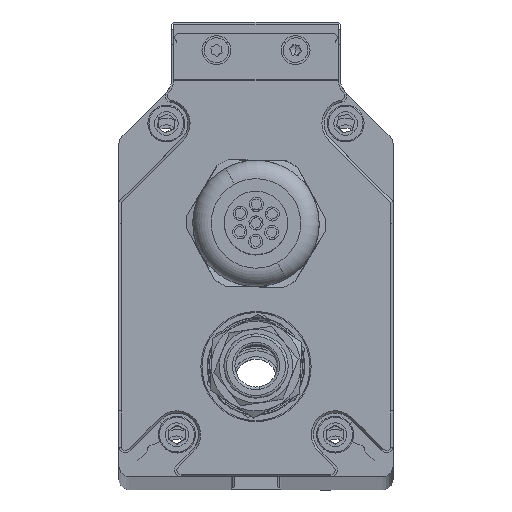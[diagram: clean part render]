
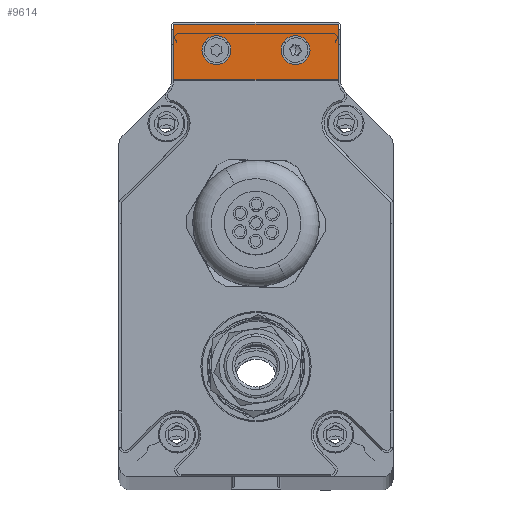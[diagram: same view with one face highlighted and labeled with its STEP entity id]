
A CAD part, top view. The second image highlights one B-rep face of the part: STEP entity #9614.
In plain terms, the highlighted planar face has unit normal (0, 0, 1).
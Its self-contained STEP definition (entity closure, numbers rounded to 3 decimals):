
#996 = AXIS2_PLACEMENT_3D ( 'NONE', #21338, #10329, #17474 ) ;
#1043 = DIRECTION ( 'NONE',  ( 1., 0., 0. ) ) ;
#1044 = FACE_BOUND ( 'NONE', #11400, .T. ) ;
#1137 = EDGE_CURVE ( 'NONE', #14623, #12582, #3480, .T. ) ;
#1951 = EDGE_CURVE ( 'NONE', #2316, #19491, #9259, .T. ) ;
#2207 = CARTESIAN_POINT ( 'NONE',  ( 15.6, 1.85, 8. ) ) ;
#2316 = VERTEX_POINT ( 'NONE', #19508 ) ;
#2589 = ORIENTED_EDGE ( 'NONE', *, *, #1951, .F. ) ;
#2670 = VECTOR ( 'NONE', #21395, 1000. ) ;
#2775 = FACE_OUTER_BOUND ( 'NONE', #18760, .T. ) ;
#2953 = DIRECTION ( 'NONE',  ( 1., 0., 0. ) ) ;
#3116 = DIRECTION ( 'NONE',  ( 1., 0., 0. ) ) ;
#3289 = AXIS2_PLACEMENT_3D ( 'NONE', #10771, #12391, #12639 ) ;
#3480 = LINE ( 'NONE', #13775, #2670 ) ;
#3891 = ORIENTED_EDGE ( 'NONE', *, *, #20672, .T. ) ;
#3961 = LINE ( 'NONE', #12841, #16282 ) ;
#4304 = DIRECTION ( 'NONE',  ( 0., 1., 0. ) ) ;
#4348 = AXIS2_PLACEMENT_3D ( 'NONE', #22434, #17156, #3116 ) ;
#4528 = ORIENTED_EDGE ( 'NONE', *, *, #9239, .F. ) ;
#4742 = VECTOR ( 'NONE', #6153, 1000. ) ;
#5077 = CARTESIAN_POINT ( 'NONE',  ( 4.75, -3.09, 8. ) ) ;
#5732 = EDGE_CURVE ( 'NONE', #17092, #12582, #14490, .T. ) ;
#5947 = CARTESIAN_POINT ( 'NONE',  ( -15.6, -8.657, 8. ) ) ;
#6153 = DIRECTION ( 'NONE',  ( -1., 0., 0. ) ) ;
#6373 = EDGE_CURVE ( 'NONE', #17590, #22151, #14799, .T. ) ;
#7914 = CARTESIAN_POINT ( 'NONE',  ( 7.5, -3.09, 8. ) ) ;
#8149 = DIRECTION ( 'NONE',  ( 0., 0., 1. ) ) ;
#8520 = ORIENTED_EDGE ( 'NONE', *, *, #5732, .F. ) ;
#9239 = EDGE_CURVE ( 'NONE', #22151, #17590, #23044, .T. ) ;
#9259 = CIRCLE ( 'NONE', #3289, 2.75 ) ;
#9280 = EDGE_LOOP ( 'NONE', ( #18486, #4528 ) ) ;
#9614 = ADVANCED_FACE ( 'NONE', ( #2775, #1044, #15285 ), #19134, .T. ) ;
#9815 = CARTESIAN_POINT ( 'NONE',  ( -10.25, -3.09, 8. ) ) ;
#10000 = CARTESIAN_POINT ( 'NONE',  ( -15.6, 1.85, 8. ) ) ;
#10329 = DIRECTION ( 'NONE',  ( 0., 0., 1. ) ) ;
#10771 = CARTESIAN_POINT ( 'NONE',  ( 7.5, -3.09, 8. ) ) ;
#10791 = CARTESIAN_POINT ( 'NONE',  ( 15.6, -8.657, 8. ) ) ;
#10935 = EDGE_CURVE ( 'NONE', #19491, #2316, #13104, .T. ) ;
#11400 = EDGE_LOOP ( 'NONE', ( #2589, #21927 ) ) ;
#11636 = AXIS2_PLACEMENT_3D ( 'NONE', #7914, #8149, #1043 ) ;
#12324 = VECTOR ( 'NONE', #16693, 1000. ) ;
#12391 = DIRECTION ( 'NONE',  ( 0., 0., 1. ) ) ;
#12582 = VERTEX_POINT ( 'NONE', #19913 ) ;
#12639 = DIRECTION ( 'NONE',  ( 1., 0., 0. ) ) ;
#12817 = CARTESIAN_POINT ( 'NONE',  ( -4.75, -3.09, 8. ) ) ;
#12841 = CARTESIAN_POINT ( 'NONE',  ( 15.6, 0., 8. ) ) ;
#13104 = CIRCLE ( 'NONE', #11636, 2.75 ) ;
#13331 = VERTEX_POINT ( 'NONE', #2207 ) ;
#13775 = CARTESIAN_POINT ( 'NONE',  ( -15.6, -84., 8. ) ) ;
#14490 = LINE ( 'NONE', #5947, #12324 ) ;
#14623 = VERTEX_POINT ( 'NONE', #15454 ) ;
#14799 = CIRCLE ( 'NONE', #996, 2.75 ) ;
#15226 = DIRECTION ( 'NONE',  ( 0., 0., 1. ) ) ;
#15285 = FACE_BOUND ( 'NONE', #9280, .T. ) ;
#15327 = CARTESIAN_POINT ( 'NONE',  ( -7.5, -3.09, 8. ) ) ;
#15454 = CARTESIAN_POINT ( 'NONE',  ( -15.6, 1.85, 8. ) ) ;
#15603 = LINE ( 'NONE', #10000, #4742 ) ;
#16282 = VECTOR ( 'NONE', #4304, 1000. ) ;
#16693 = DIRECTION ( 'NONE',  ( -1., 0., 0. ) ) ;
#17092 = VERTEX_POINT ( 'NONE', #10791 ) ;
#17156 = DIRECTION ( 'NONE',  ( 0., 0., 1. ) ) ;
#17474 = DIRECTION ( 'NONE',  ( 1., 0., 0. ) ) ;
#17590 = VERTEX_POINT ( 'NONE', #12817 ) ;
#18486 = ORIENTED_EDGE ( 'NONE', *, *, #6373, .F. ) ;
#18576 = ORIENTED_EDGE ( 'NONE', *, *, #21536, .T. ) ;
#18760 = EDGE_LOOP ( 'NONE', ( #8520, #18576, #3891, #19906 ) ) ;
#19134 = PLANE ( 'NONE',  #4348 ) ;
#19332 = AXIS2_PLACEMENT_3D ( 'NONE', #15327, #15226, #2953 ) ;
#19491 = VERTEX_POINT ( 'NONE', #5077 ) ;
#19508 = CARTESIAN_POINT ( 'NONE',  ( 10.25, -3.09, 8. ) ) ;
#19906 = ORIENTED_EDGE ( 'NONE', *, *, #1137, .T. ) ;
#19913 = CARTESIAN_POINT ( 'NONE',  ( -15.6, -8.657, 8. ) ) ;
#20672 = EDGE_CURVE ( 'NONE', #13331, #14623, #15603, .T. ) ;
#21338 = CARTESIAN_POINT ( 'NONE',  ( -7.5, -3.09, 8. ) ) ;
#21395 = DIRECTION ( 'NONE',  ( 0., -1., 0. ) ) ;
#21536 = EDGE_CURVE ( 'NONE', #17092, #13331, #3961, .T. ) ;
#21927 = ORIENTED_EDGE ( 'NONE', *, *, #10935, .F. ) ;
#22151 = VERTEX_POINT ( 'NONE', #9815 ) ;
#22434 = CARTESIAN_POINT ( 'NONE',  ( 0., -84., 8. ) ) ;
#23044 = CIRCLE ( 'NONE', #19332, 2.75 ) ;
